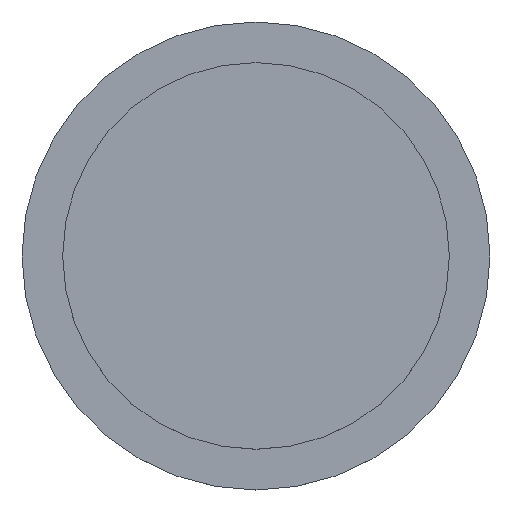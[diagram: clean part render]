
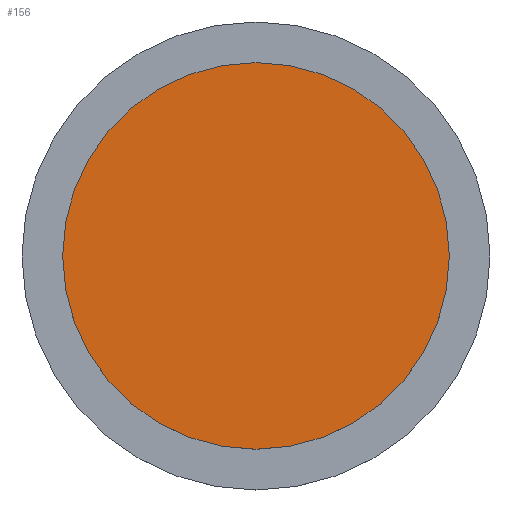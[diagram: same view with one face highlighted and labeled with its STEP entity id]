
A CAD part, top view. The second image highlights one B-rep face of the part: STEP entity #156.
In plain terms, the highlighted planar face has unit normal (0, 0, 1).
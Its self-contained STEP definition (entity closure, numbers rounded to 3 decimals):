
#110 = VERTEX_POINT('',#111);
#111 = CARTESIAN_POINT('',(12.6,6.9,1.15));
#117 = EDGE_CURVE('',#110,#110,#118,.T.);
#118 = CIRCLE('',#119,5.7);
#119 = AXIS2_PLACEMENT_3D('',#120,#121,#122);
#120 = CARTESIAN_POINT('',(6.9,6.9,1.15));
#121 = DIRECTION('',(0.,0.,1.));
#122 = DIRECTION('',(1.,0.,0.));
#156 = ADVANCED_FACE('',(#157),#160,.T.);
#157 = FACE_BOUND('',#158,.F.);
#158 = EDGE_LOOP('',(#159));
#159 = ORIENTED_EDGE('',*,*,#117,.F.);
#160 = PLANE('',#161);
#161 = AXIS2_PLACEMENT_3D('',#162,#163,#164);
#162 = CARTESIAN_POINT('',(6.9,6.9,1.15));
#163 = DIRECTION('',(0.,0.,1.));
#164 = DIRECTION('',(1.,0.,0.));
